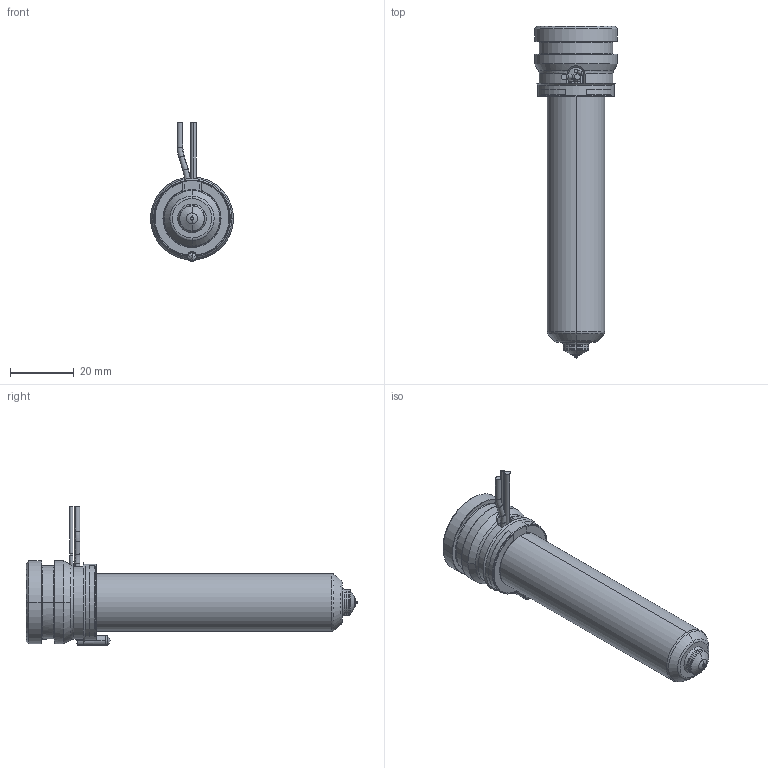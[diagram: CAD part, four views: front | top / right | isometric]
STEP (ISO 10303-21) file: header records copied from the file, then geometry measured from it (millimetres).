
FILE_DESCRIPTION((''),'2;1');
FILE_NAME('MPN-08-24-VS8-086-A','2026-02-05T11:57:59',('UPTIO'),('Thermoplay S.p.A.'),'CREO PARAMETRIC BY PTC INC, 2023494','CREO PARAMETRIC BY PTC INC, 2023494','');
FILE_SCHEMA(('CONFIG_CONTROL_DESIGN','SHAPE_APPEARANCE_LAYERS_GROUPS'));
Length unit declared in the file: millimetre
Products named in the file (1): MPN-08-24-VS8-086-A
Bounding box: 26 x 104 x 43.5 mm (x, y, z)
Volume: 20963.3 mm3; surface area: 26197.8 mm2
Topology: 2 solids, 3 shells, 543 faces, 1434 edges, 889 vertices
Faces by surface type: cylinder 180, plane 143, bspline 82, torus 62, cone 60, sphere 10, extrusion 6
Entity records: 29041 total; most frequent: CARTESIAN_POINT 12865, ORIENTED_EDGE 2852, DIRECTION 2568, EDGE_CURVE 1426, AXIS2_PLACEMENT_3D 1003, VERTEX_POINT 889, EDGE_LOOP 571, VECTOR 562
